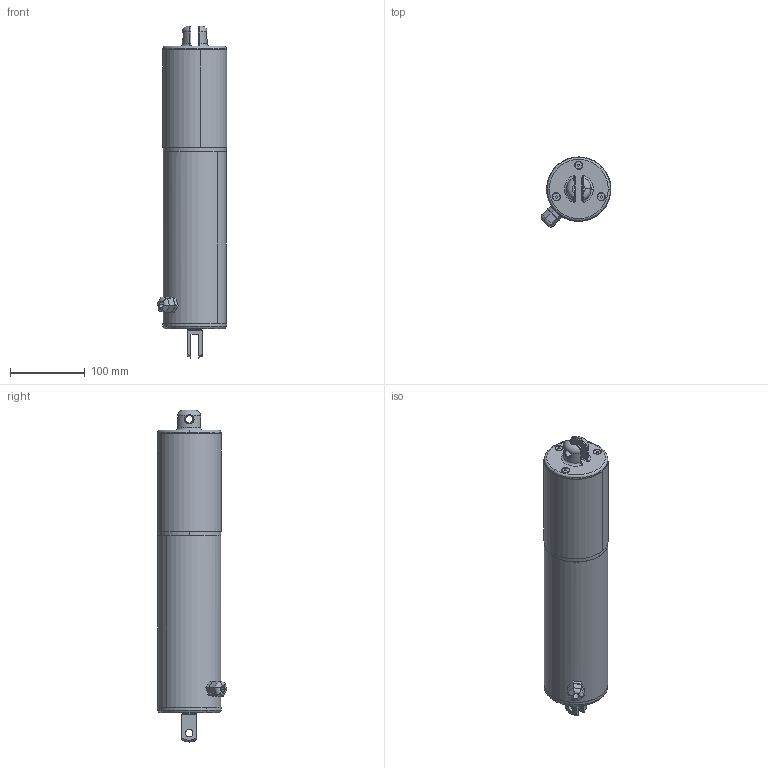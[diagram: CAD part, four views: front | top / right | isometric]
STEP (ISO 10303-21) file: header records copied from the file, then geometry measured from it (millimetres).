
FILE_DESCRIPTION (( 'STEP AP203' ), '1' );
FILE_NAME ('ES80-55 REV A.STEP', '2019-09-20T07:13:19', ( '' ), ( '' ), 'SwSTEP 2.0', 'SolidWorks 2019', '' );
FILE_SCHEMA (( 'CONFIG_CONTROL_DESIGN' ));
Length unit declared in the file: millimetre
Products named in the file (1): ES80-55 REV A
Bounding box: 93.35 x 93.35 x 444.3 mm (x, y, z)
Surface area: 127721.6 mm2 (no closed solid volume)
Topology: 0 solids, 17 shells, 149 faces, 390 edges, 255 vertices
Faces by surface type: cylinder 57, plane 56, bspline 16, cone 12, torus 8
Entity records: 6036 total; most frequent: CARTESIAN_POINT 2385, DIRECTION 753, ORIENTED_EDGE 674, EDGE_CURVE 386, AXIS2_PLACEMENT_3D 287, VERTEX_POINT 255, VECTOR 179, LINE 179
